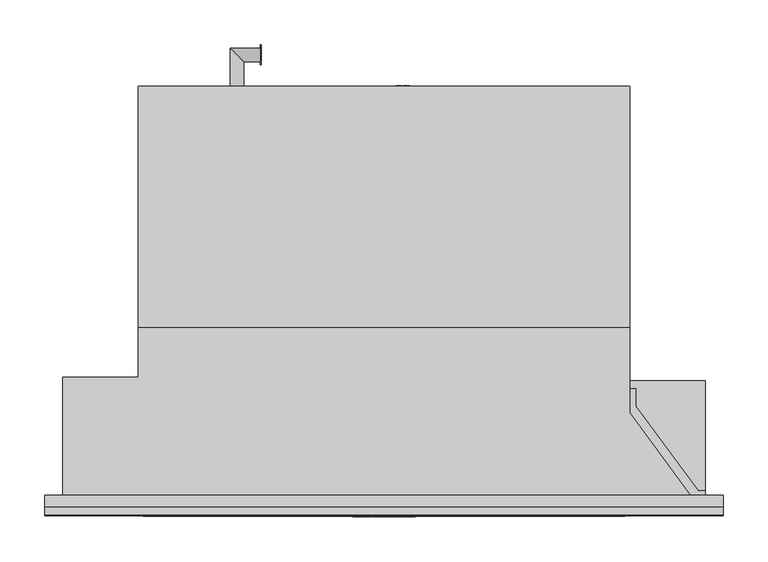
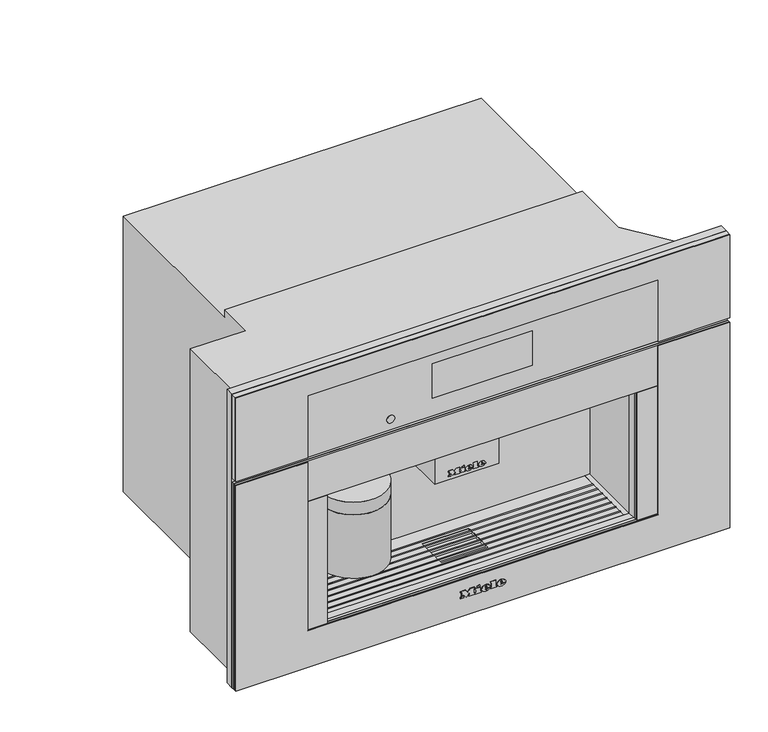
"""IFC4 building model written with IfcOpenShell, lengths in millimetres: proxy geometry, 11733870_CDN_CVA7775_EDST-CLST : 29777540_CDN_11733870_CVA7775_EDST-CLST."""

from ifc_helpers import new_model, si_unit, point, frame, frame_2d, origin, place, context, project, spatial, polyline, circle_curve, ellipse_curve, trimmed, segment, composite_curve, outline, extrude, faceted_brep, source, transform, mapped, element, save
from ifc_brep_helpers import plane_surface, cylinder_surface, revolved_surface, extruded_surface, advanced_brep


def specialty_equipment_463541c9(model_context):
    return source(origin(), model_context, "Body", "SolidModel", [
        extrude(outline(composite_curve([segment(trimmed(circle_curve(frame_2d((-14.0, 36.5)), 5.0), [point((-9.0, 36.5))], [point((-19.0, 36.5))], False, "CARTESIAN"), True, "CONTINUOUS"), segment(trimmed(circle_curve(frame_2d((-14.0, 36.5)), 5.0), [point((-19.0, 36.5))], [point((-9.0, 36.5))], False, "CARTESIAN"), True, "CONTINUOUS")], self_intersect=False)), frame((0.0, 0.0, 193.0), z_axis=(0.0, 0.0, 1.0), x_axis=(1.0, 0.0, 0.0)), (0.0, 0.0, 1.0), 5.0),
        extrude(outline(composite_curve([segment(trimmed(circle_curve(frame_2d((14.0, 36.5)), 5.0), [point((19.0, 36.5))], [point((9.0, 36.5))], False, "CARTESIAN"), True, "CONTINUOUS"), segment(trimmed(circle_curve(frame_2d((14.0, 36.5)), 5.0), [point((9.0, 36.5))], [point((19.0, 36.5))], False, "CARTESIAN"), True, "CONTINUOUS")], self_intersect=False)), frame((0.0, 0.0, 193.0), z_axis=(0.0, 0.0, 1.0), x_axis=(1.0, 0.0, 0.0)), (0.0, 0.0, 1.0), 5.0),
        extrude(outline(composite_curve([segment(trimmed(circle_curve(frame_2d((-156.5, 49.5)), 50.0), [point((-106.5, 49.5))], [point((-206.5, 49.5))], False, "CARTESIAN"), True, "CONTINUOUS"), segment(trimmed(circle_curve(frame_2d((-156.5, 49.5)), 50.0), [point((-206.5, 49.5))], [point((-106.5, 49.5))], False, "CARTESIAN"), True, "CONTINUOUS")], self_intersect=False)), frame((0.0, 0.0, 100.0), z_axis=(0.0, 0.0, 1.0), x_axis=(1.0, 0.0, 0.0)), (0.0, 0.0, 1.0), 103.0),
        extrude(outline(polyline([(-49.0, 95.0), (49.0, 95.0), (49.0, 20.0), (-49.0, 20.0), (-49.0, 95.0)])), frame((0.0, 0.0, 198.0), z_axis=(0.0, 0.0, 1.0), x_axis=(1.0, 0.0, 0.0)), (0.0, 0.0, 1.0), 75.0),
        extrude(outline(polyline([(479.0, 378.5), (479.0, -378.5), (4.0, -378.5), (4.0, 378.5), (479.0, 378.5)]), holes=[polyline([(273.0, 237.5), (63.0, 237.5), (63.0, -237.5), (273.0, -237.5), (273.0, 237.5)])]), frame((0.0, -13.0, 0.0), z_axis=(0.0, 1.0, 0.0), x_axis=(0.0, 0.0, 1.0)), (0.0, 0.0, 1.0), 13.0),
        extrude(outline(polyline([(281.0, 118.7), (281.0, 99.0591954), (350.457423, 4.7), (358.5, 4.7), (358.5, 0.0), (341.5, 0.0), (274.0, 91.7), (274.0, 118.7), (281.0, 118.7)])), frame((0.0, 0.0, 45.0), z_axis=(0.0, 0.0, 1.0), x_axis=(1.0, 0.0, 0.0)), (0.0, 0.0, 1.0), 34.0),
        faceted_brep([(-22.0, 400.0, 133.0), (55.0, 400.0, 133.0), (55.0, 400.0, 66.0), (35.0, 400.0, 66.0), (-22.0, 400.0, 89.0), (-22.0, 456.0, 133.0), (55.0, 456.0, 133.0), (55.0, 456.0, 66.0), (35.0, 456.0, 66.0), (-22.0, 456.0, 89.0), (358.5, 0.0, 0.0), (358.5, 127.7, 0.0), (358.5, 127.7, 45.0), (358.5, 0.0, 45.0), (-358.5, 0.0, 0.0), (-358.5, 0.0, 458.0), (-358.5, 131.7, 458.0), (-358.5, 131.7, 0.0), (-274.0, 131.7, 0.0), (-274.0, 456.0, 0.0), (274.0, 456.0, 0.0), (274.0, 127.7, 0.0), (274.0, 456.0, 446.0), (-274.0, 456.0, 446.0), (274.0, 187.0, 446.0), (-274.0, 187.0, 446.0), (274.0, 187.0, 458.0), (-274.0, 187.0, 458.0), (341.5, 0.0, 458.0), (274.0, 91.7, 458.0), (-274.0, 131.7, 458.0), (341.5, 0.0, 45.0), (237.5, 0.0, 273.0), (237.5, 0.0, 63.0), (229.5, 0.0, 63.0), (229.5, 0.0, 62.0), (-229.5, 0.0, 62.0), (-229.5, 0.0, 63.0), (-237.5, 0.0, 63.0), (-237.5, 0.0, 273.0), (237.5, 104.5, 273.0), (-237.5, 104.5, 273.0), (-237.5, 104.5, 63.0), (-229.5, 104.5, 63.0), (-229.5, 104.5, 62.0), (229.5, 104.5, 62.0), (229.5, 104.5, 63.0), (237.5, 104.5, 63.0), (-36.0, 76.0, 62.0), (36.0, 76.0, 62.0), (36.0, 25.0, 62.0), (-36.0, 25.0, 62.0), (36.0, 76.0, 58.0), (-36.0, 76.0, 58.0), (-36.0, 25.0, 58.0), (36.0, 25.0, 58.0), (274.0, 91.7, 45.0), (274.0, 127.7, 45.0)], [[[0, 1, 2, 3, 4]], [[1, 0, 5, 6]], [[2, 1, 6, 7]], [[3, 2, 7, 8]], [[4, 3, 8, 9]], [[0, 4, 9, 5]], [[10, 11, 12, 13]], [[14, 15, 16, 17]], [[10, 14, 17, 18, 19, 20, 21, 11]], [[22, 20, 19, 23], [6, 5, 9, 8, 7]], [[24, 22, 23, 25]], [[26, 24, 25, 27]], [[15, 28, 29, 26, 27, 30, 16]], [[15, 14, 10, 13, 31, 28], [32, 33, 34, 35, 36, 37, 38, 39]], [[40, 41, 42, 43, 44, 45, 46, 47]], [[40, 47, 33, 32]], [[33, 47, 46, 34]], [[42, 38, 37, 43]], [[42, 41, 39, 38]], [[41, 40, 32, 39]], [[45, 44, 36, 35], [48, 49, 50, 51]], [[36, 44, 43, 37]], [[45, 35, 34, 46]], [[52, 53, 54, 55]], [[53, 52, 49, 48]], [[54, 53, 48, 51]], [[55, 54, 51, 50]], [[52, 55, 50, 49]], [[21, 20, 22, 24, 26, 29, 56, 57]], [[18, 30, 27, 25, 23, 19]], [[11, 21, 57, 12]], [[57, 56, 31, 13, 12]], [[30, 18, 17, 16]], [[31, 56, 29, 28]]]),
        extrude(outline(polyline([(480.48348, 22.0), (480.48348, 32.045631), (481.7391839, 32.045631), (481.7391839, 27.128275), (486.8895318, 32.045631), (488.6455552, 32.045631), (484.3217155, 27.9155425), (488.8025182, 22.0), (487.267224, 22.0), (483.4314411, 27.0669613), (481.7391839, 25.4531857), (481.7391839, 22.0), (480.48348, 22.0)])), frame((-138.0, 0.0, 0.0), z_axis=(1.0, 0.0, 0.0), x_axis=(0.0, 1.0, 0.0)), (0.0, 0.0, 1.0), 1.0),
        extrude(outline(polyline([(491.5420128, 22.0), (488.8025182, 32.045631), (490.0974628, 32.045631), (491.6867131, 25.4433755), (492.1772224, 23.4053092), (492.7020674, 25.207931), (494.6935352, 32.045631), (496.5599232, 32.045631), (498.0069257, 27.0890343), (499.0835937, 23.4053092), (499.5593878, 25.3845144), (501.1633533, 32.045631), (502.4582979, 32.045631), (499.7163507, 22.0), (498.3748077, 22.0), (495.9664069, 29.7500474), (495.630408, 30.8316204), (495.2527159, 29.5293182), (493.0576866, 22.0), (491.5420128, 22.0)])), frame((-138.0, 0.0, 0.0), z_axis=(1.0, 0.0, 0.0), x_axis=(0.0, 1.0, 0.0)), (0.0, 0.0, 1.0), 1.0),
        advanced_brep(
        [(-156.5, 456.0, 27.0), (-171.5, 456.0, 27.0), (-156.5, 483.5, 27.0), (-171.5, 498.5, 27.0), (-138.0, 483.5, 27.0), (-138.0, 498.5, 27.0)],
        [
            (0, 1, circle_curve(frame((-164.0, 456.0, 27.0), z_axis=(0.0, -1.0, 0.0), x_axis=(-1.0, 0.0, 0.0)), 7.5)),
            (1, 0, circle_curve(frame((-164.0, 456.0, 27.0), z_axis=(0.0, -1.0, 0.0), x_axis=(-1.0, 0.0, 0.0)), 7.5)),
            (0, 2),
            (2, 3, ellipse_curve(frame((-164.0, 491.0, 27.0), z_axis=(-0.707106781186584, -0.7071067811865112, 0.0), x_axis=(0.7071067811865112, -0.7071067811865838, 0.0)), 10.6066017, 7.5)),
            (3, 1),
            (3, 2, ellipse_curve(frame((-164.0, 491.0, 27.0), z_axis=(-0.707106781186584, -0.7071067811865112, 0.0), x_axis=(0.7071067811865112, -0.7071067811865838, 0.0)), 10.6066017, 7.5)),
            (4, 5, circle_curve(frame((-138.0, 491.0, 27.0), z_axis=(1.0, 0.0, 0.0), x_axis=(0.0, 1.0, 0.0)), 7.5)),
            (5, 4, circle_curve(frame((-138.0, 491.0, 27.0), z_axis=(1.0, 0.0, 0.0), x_axis=(0.0, 1.0, 0.0)), 7.5)),
            (2, 4),
            (5, 3),
        ],
        [
            plane_surface(frame((-164.0, 456.0, 27.0), z_axis=(0.0, -1.0, 0.0), x_axis=(0.0, 0.0, 1.0))),
            cylinder_surface(frame((-164.0, 456.0, 27.0), z_axis=(0.0, -1.0, 0.0), x_axis=(-1.0, 0.0, 0.0)), 7.5),
            plane_surface(frame((-138.0, 491.0, 27.0), z_axis=(1.0, 0.0, 0.0), x_axis=(0.0, 0.0, 1.0))),
            cylinder_surface(frame((-164.0, 491.0, 27.0), z_axis=(-1.0, 0.0, 0.0), x_axis=(0.0, 1.0, 0.0)), 7.5),
        ],
        [
            (0, [[1, 2]]),
            (1, [[-1, 3, 4, 5]]),
            (1, [[-2, -5, 6, -3]]),
            (2, [[7, 8]]),
            (3, [[-4, 9, -8, 10]]),
            (3, [[-6, -10, -7, -9]]),
        ],
    ),
        extrude(outline(polyline([(99.0, 28.8772152), (109.045631, 28.8772152), (109.045631, 21.6569179), (107.7899271, 21.6569179), (107.7899271, 27.6215114), (104.8076304, 27.6215114), (104.8076304, 21.9708439), (103.5519266, 21.9708439), (103.5519266, 27.6215114), (100.2557039, 27.6215114), (100.2557039, 21.499955), (99.0, 21.499955), (99.0, 28.8772152)])), frame((0.0, 456.0, 0.0), z_axis=(0.0, 1.0, 0.0), x_axis=(0.0, 0.0, 1.0)), (0.0, 0.0, 1.0), 1.0),
        extrude(outline(polyline([(99.0, 19.6163991), (109.045631, 19.6163991), (109.045631, 18.3606953), (100.2557039, 18.3606953), (100.2557039, 13.3378798), (99.0, 13.3378798), (99.0, 19.6163991)])), frame((0.0, 456.0, 0.0), z_axis=(0.0, 1.0, 0.0), x_axis=(0.0, 0.0, 1.0)), (0.0, 0.0, 1.0), 1.0),
        advanced_brep(
        [(55.0, 425.5, 104.0), (55.0, 410.5, 104.0), (28.5, 425.5, 104.0), (13.5, 410.5, 104.0), (28.5, 456.0, 104.0), (13.5, 456.0, 104.0)],
        [
            (0, 1, circle_curve(frame((55.0, 418.0, 104.0), z_axis=(1.0, 0.0, 0.0), x_axis=(0.0, -1.0, 0.0)), 7.5)),
            (1, 0, circle_curve(frame((55.0, 418.0, 104.0), z_axis=(1.0, 0.0, 0.0), x_axis=(0.0, -1.0, 0.0)), 7.5)),
            (0, 2),
            (2, 3, ellipse_curve(frame((21.0, 418.0, 104.0), z_axis=(0.7071067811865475, -0.7071067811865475, 0.0), x_axis=(0.7071067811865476, 0.7071067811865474, 0.0)), 10.6066017, 7.5)),
            (3, 1),
            (3, 2, ellipse_curve(frame((21.0, 418.0, 104.0), z_axis=(0.7071067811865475, -0.7071067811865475, 0.0), x_axis=(0.7071067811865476, 0.7071067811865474, 0.0)), 10.6066017, 7.5)),
            (4, 5, circle_curve(frame((21.0, 456.0, 104.0), z_axis=(0.0, 1.0, 0.0), x_axis=(-1.0, 0.0, 0.0)), 7.5)),
            (5, 4, circle_curve(frame((21.0, 456.0, 104.0), z_axis=(0.0, 1.0, 0.0), x_axis=(-1.0, 0.0, 0.0)), 7.5)),
            (2, 4),
            (5, 3),
        ],
        [
            plane_surface(frame((55.0, 418.0, 104.0), z_axis=(1.0, 0.0, 0.0), x_axis=(0.0, 0.0, 1.0))),
            cylinder_surface(frame((55.0, 418.0, 104.0), z_axis=(1.0, 0.0, 0.0), x_axis=(0.0, -1.0, 0.0)), 7.5),
            plane_surface(frame((21.0, 456.0, 104.0), z_axis=(0.0, 1.0, 0.0), x_axis=(0.0, 0.0, 1.0))),
            cylinder_surface(frame((21.0, 418.0, 104.0), z_axis=(0.0, -1.0, 0.0), x_axis=(-1.0, 0.0, 0.0)), 7.5),
        ],
        [
            (0, [[1, 2]]),
            (1, [[-1, 3, 4, 5]]),
            (1, [[-2, -5, 6, -3]]),
            (2, [[7, 8]]),
            (3, [[-4, 9, -8, 10]]),
            (3, [[-6, -10, -7, -9]]),
        ],
    ),
        advanced_brep(
        [(-110.0, 49.5, 252.0), (-203.0, 49.5, 252.0), (-206.5, 49.5, 223.5), (-106.5, 49.5, 223.5), (-110.0, 49.5, 273.0), (-203.0, 49.5, 273.0), (-156.5, 49.5, 273.0), (-106.5, 49.5, 203.0), (-206.5, 49.5, 203.0), (-156.5, 49.5, 203.0)],
        [
            (0, 1, circle_curve(frame((-156.5, 49.5, 252.0), z_axis=(0.0, 0.0, -1.0), x_axis=(-1.0, 0.0, 0.0)), 46.5)),
            (1, 2, circle_curve(frame((-206.7961166, 49.5, 238.0012775), z_axis=(0.0, 1.0, 0.0), x_axis=(-1.0, 0.0, 0.0)), 14.5043005)),
            (2, 3, circle_curve(frame((-156.5, 49.5, 223.5), z_axis=(0.0, 0.0, 1.0), x_axis=(-1.0, 0.0, 0.0)), 50.0)),
            (3, 0, circle_curve(frame((-106.2038834, 49.5, 238.0012775), z_axis=(0.0, 1.0, 0.0), x_axis=(1.0, 0.0, 0.0)), 14.5043005)),
            (4, 5, circle_curve(frame((-156.5, 49.5, 273.0), z_axis=(0.0, 0.0, -1.0), x_axis=(-1.0, 0.0, 0.0)), 46.5)),
            (5, 1),
            (0, 4),
            (6, 4),
            (4, 5, circle_curve(frame((-156.5, 49.5, 273.0), z_axis=(0.0, 0.0, 1.0), x_axis=(-1.0, 0.0, 0.0)), 46.5)),
            (5, 6),
            (7, 8, circle_curve(frame((-156.5, 49.5, 203.0), z_axis=(0.0, 0.0, -1.0), x_axis=(-1.0, 0.0, 0.0)), 50.0)),
            (8, 9),
            (9, 7),
            (8, 7, circle_curve(frame((-156.5, 49.5, 203.0), z_axis=(0.0, 0.0, -1.0), x_axis=(-1.0, 0.0, 0.0)), 50.0)),
            (2, 8),
            (7, 3),
            (2, 3, circle_curve(frame((-156.5, 49.5, 223.5), z_axis=(0.0, 0.0, -1.0), x_axis=(-1.0, 0.0, 0.0)), 50.0)),
            (1, 0, circle_curve(frame((-156.5, 49.5, 252.0), z_axis=(0.0, 0.0, -1.0), x_axis=(-1.0, 0.0, 0.0)), 46.5)),
        ],
        [
            revolved_surface(trimmed(ellipse_curve(frame((-206.7961166, 49.5, 238.0012775), z_axis=(0.0, -1.0, 0.0), x_axis=(-1.0, 0.0, 0.0)), 14.5043005, 14.5043005), [point((-206.5, 49.5, 223.5))], [point((-203.0, 49.5, 252.0))], True, "CARTESIAN"), (-156.5, 49.5, 388.7361736), (0.0, 0.0, 1.0)),
            cylinder_surface(frame((-156.5, 49.5, 388.7361736), z_axis=(0.0, 0.0, 1.0), x_axis=(-1.0, 0.0, 0.0)), 46.5),
            plane_surface(frame((-156.5, 49.5, 273.0), z_axis=(0.0, 0.0, 1.0), x_axis=(-1.0, 0.0, 0.0))),
            plane_surface(frame((-156.5, 49.5, 203.0), z_axis=(0.0, 0.0, -1.0), x_axis=(-1.0, 0.0, 0.0))),
            cylinder_surface(frame((-156.5, 49.5, 388.7361736), z_axis=(0.0, 0.0, 1.0), x_axis=(-1.0, 0.0, 0.0)), 50.0),
        ],
        [
            (0, [[1, 2, 3, 4]]),
            (1, [[5, 6, -1, 7]]),
            (2, [[8, 9, 10]]),
            (3, [[11, 12, 13]]),
            (3, [[14, -13, -12]]),
            (4, [[-3, 15, -11, 16]]),
            (4, [[17, -16, -14, -15]]),
            (0, [[18, -4, -17, -2]]),
            (1, [[-9, -7, -18, -6]]),
            (2, [[-10, -5, -8]]),
        ],
    ),
        faceted_brep([(229.5, 82.0925571, 60.0), (229.5, 80.0925571, 60.0), (-229.5, 80.0925571, 60.0), (-229.5, 82.0925571, 60.0), (229.5, 70.0550731, 60.0), (229.5, 68.0550731, 60.0), (-229.5, 68.0550731, 60.0), (-229.5, 70.0550731, 60.0), (229.5, 58.0175891, 60.0), (229.5, 56.0175891, 60.0), (-229.5, 56.0175891, 60.0), (-229.5, 58.0175891, 60.0), (229.5, 45.9801052, 60.0), (229.5, 43.9801052, 60.0), (-229.5, 43.9801052, 60.0), (-229.5, 45.9801052, 60.0), (229.5, 33.9426212, 60.0), (229.5, 31.9426212, 60.0), (-229.5, 31.9426212, 60.0), (-229.5, 33.9426212, 60.0), (229.5, 21.9776522, 60.0), (229.5, 19.9776522, 60.0), (-229.5, 19.9776522, 60.0), (-229.5, 21.9776522, 60.0), (229.5, 10.0, 60.0), (229.5, 8.0, 60.0), (-229.5, 8.0, 60.0), (-229.5, 10.0, 60.0), (-229.5, 45.9801052, 62.0), (-36.0, 45.9801052, 62.0), (-36.0, 45.9801052, 63.0), (-229.5, 45.9801052, 63.0), (-229.5, 45.9801052, 63.5), (229.5, 45.9801052, 63.5), (229.5, 45.9801052, 63.0), (36.0, 45.9801052, 63.0), (36.0, 45.9801052, 62.0), (229.5, 45.9801052, 62.0), (229.5, 19.9776522, 62.0), (229.5, 10.0, 62.0), (-229.5, 10.0, 62.0), (-229.5, 19.9776522, 62.0), (229.5, 43.9801052, 62.0), (229.5, 33.9426212, 62.0), (36.0, 33.9426212, 62.0), (36.0, 43.9801052, 62.0), (229.5, 56.0175891, 62.0), (36.0, 56.0175891, 62.0), (229.5, 68.0550731, 62.0), (229.5, 58.0175891, 62.0), (36.0, 58.0175891, 62.0), (36.0, 68.0550731, 62.0), (-229.5, 33.9426212, 62.0), (-229.5, 43.9801052, 62.0), (-36.0, 43.9801052, 62.0), (-36.0, 33.9426212, 62.0), (-229.5, 56.0175891, 62.0), (-36.0, 56.0175891, 62.0), (-229.5, 58.0175891, 62.0), (-229.5, 68.0550731, 62.0), (-36.0, 68.0550731, 62.0), (-36.0, 58.0175891, 62.0), (-229.5, 104.5, 62.0), (229.5, 104.5, 62.0), (229.5, 82.0925571, 62.0), (-229.5, 82.0925571, 62.0), (36.0, 76.0, 62.0), (-36.0, 76.0, 62.0), (-36.0, 70.0550731, 62.0), (-229.5, 70.0550731, 62.0), (-229.5, 80.0925571, 62.0), (229.5, 80.0925571, 62.0), (229.5, 70.0550731, 62.0), (36.0, 70.0550731, 62.0), (229.5, 0.0, 62.0), (-229.5, 0.0, 62.0), (-229.5, 8.0, 62.0), (229.5, 8.0, 62.0), (-36.0, 25.0, 62.0), (36.0, 25.0, 62.0), (36.0, 31.9426212, 62.0), (229.5, 31.9426212, 62.0), (229.5, 21.9776522, 62.0), (-229.5, 21.9776522, 62.0), (-229.5, 31.9426212, 62.0), (-36.0, 31.9426212, 62.0), (229.5, 104.5, 63.0), (-229.5, 104.5, 63.0), (-229.5, 82.0925571, 63.0), (229.5, 82.0925571, 63.0), (-229.5, 0.0, 63.0), (229.5, 0.0, 63.0), (229.5, 8.0, 63.0), (-229.5, 8.0, 63.0), (-36.0, 76.0, 63.0), (36.0, 76.0, 63.0), (36.0, 70.0550731, 63.0), (229.5, 70.0550731, 63.0), (229.5, 80.0925571, 63.0), (-229.5, 80.0925571, 63.0), (-229.5, 70.0550731, 63.0), (-36.0, 70.0550731, 63.0), (36.0, 25.0, 63.0), (-36.0, 25.0, 63.0), (-36.0, 31.9426212, 63.0), (-229.5, 31.9426212, 63.0), (-229.5, 21.9776522, 63.0), (229.5, 21.9776522, 63.0), (229.5, 31.9426212, 63.0), (36.0, 31.9426212, 63.0), (-229.5, 19.9776522, 63.0), (-229.5, 10.0, 63.0), (229.5, 10.0, 63.0), (229.5, 19.9776522, 63.0), (-229.5, 43.9801052, 63.0), (-229.5, 33.9426212, 63.0), (-36.0, 33.9426212, 63.0), (-36.0, 43.9801052, 63.0), (-229.5, 56.0175891, 63.0), (-36.0, 56.0175891, 63.0), (-229.5, 68.0550731, 63.0), (-229.5, 58.0175891, 63.0), (-36.0, 58.0175891, 63.0), (-36.0, 68.0550731, 63.0), (229.5, 33.9426212, 63.0), (229.5, 43.9801052, 63.0), (36.0, 43.9801052, 63.0), (36.0, 33.9426212, 63.0), (229.5, 56.0175891, 63.0), (36.0, 56.0175891, 63.0), (229.5, 58.0175891, 63.0), (229.5, 68.0550731, 63.0), (36.0, 68.0550731, 63.0), (36.0, 58.0175891, 63.0), (-229.5, 8.0, 63.5), (-229.5, 10.0, 63.5), (-229.5, 19.9776522, 63.5), (-229.5, 21.9776522, 63.5), (-229.5, 31.9426212, 63.5), (-229.5, 33.9426212, 63.5), (-229.5, 43.9801052, 63.5), (-229.5, 56.0175891, 63.5), (-229.5, 58.0175891, 63.5), (-229.5, 68.0550731, 63.5), (-229.5, 70.0550731, 63.5), (-229.5, 80.0925571, 63.5), (-229.5, 82.0925571, 63.5), (229.5, 82.0925571, 63.5), (229.5, 80.0925571, 63.5), (229.5, 70.0550731, 63.5), (229.5, 68.0550731, 63.5), (229.5, 58.0175891, 63.5), (229.5, 56.0175891, 63.5), (229.5, 43.9801052, 63.5), (229.5, 33.9426212, 63.5), (229.5, 31.9426212, 63.5), (229.5, 21.9776522, 63.5), (229.5, 19.9776522, 63.5), (229.5, 10.0, 63.5), (229.5, 8.0, 63.5)], [[[0, 1, 2, 3]], [[4, 5, 6, 7]], [[8, 9, 10, 11]], [[12, 13, 14, 15]], [[16, 17, 18, 19]], [[20, 21, 22, 23]], [[24, 25, 26, 27]], [[12, 15, 28, 29, 30, 31, 32, 33, 34, 35, 36, 37]], [[38, 39, 40, 41]], [[42, 43, 44, 45]], [[46, 37, 36, 47]], [[48, 49, 50, 51]], [[52, 53, 54, 55]], [[28, 56, 57, 29]], [[58, 59, 60, 61]], [[62, 63, 64, 65]], [[66, 67, 68, 69, 70, 71, 72, 73]], [[74, 75, 76, 77]], [[78, 79, 80, 81, 82, 83, 84, 85]], [[86, 87, 88, 89]], [[90, 91, 92, 93]], [[94, 95, 96, 97, 98, 99, 100, 101]], [[102, 103, 104, 105, 106, 107, 108, 109]], [[110, 111, 112, 113]], [[114, 115, 116, 117]], [[118, 31, 30, 119]], [[120, 121, 122, 123]], [[124, 125, 126, 127]], [[34, 128, 129, 35]], [[130, 131, 132, 133]], [[63, 62, 87, 86]], [[87, 62, 65, 3, 2, 70, 69, 7, 6, 59, 58, 11, 10, 56, 28, 15, 14, 53, 52, 19, 18, 84, 83, 23, 22, 41, 40, 27, 26, 76, 75, 90, 93, 134, 135, 111, 110, 136, 137, 106, 105, 138, 139, 115, 114, 140, 32, 31, 118, 141, 142, 121, 120, 143, 144, 100, 99, 145, 146, 88]], [[75, 74, 91, 90]], [[63, 86, 89, 147, 148, 98, 97, 149, 150, 131, 130, 151, 152, 128, 34, 33, 153, 125, 124, 154, 155, 108, 107, 156, 157, 113, 112, 158, 159, 92, 91, 74, 77, 25, 24, 39, 38, 21, 20, 82, 81, 17, 16, 43, 42, 13, 12, 37, 46, 9, 8, 49, 48, 5, 4, 72, 71, 1, 0, 64]], [[66, 95, 94, 67]], [[55, 54, 117, 116]], [[29, 57, 119, 30]], [[61, 60, 123, 122]], [[67, 94, 101, 68]], [[103, 78, 85, 104]], [[78, 103, 102, 79]], [[45, 44, 127, 126]], [[47, 36, 35, 129]], [[51, 50, 133, 132]], [[95, 66, 73, 96]], [[79, 102, 109, 80]], [[158, 135, 134, 159]], [[156, 137, 136, 157]], [[154, 139, 138, 155]], [[33, 32, 140, 153]], [[151, 142, 141, 152]], [[149, 144, 143, 150]], [[147, 146, 145, 148]], [[24, 27, 40, 39]], [[135, 158, 112, 111]], [[26, 25, 77, 76]], [[159, 134, 93, 92]], [[20, 23, 83, 82]], [[137, 156, 107, 106]], [[22, 21, 38, 41]], [[157, 136, 110, 113]], [[16, 19, 52, 55, 116, 115, 139, 154, 124, 127, 44, 43]], [[18, 17, 81, 80, 109, 108, 155, 138, 105, 104, 85, 84]], [[14, 13, 42, 45, 126, 125, 153, 140, 114, 117, 54, 53]], [[8, 11, 58, 61, 122, 121, 142, 151, 130, 133, 50, 49]], [[10, 9, 46, 47, 129, 128, 152, 141, 118, 119, 57, 56]], [[4, 7, 69, 68, 101, 100, 144, 149, 97, 96, 73, 72]], [[6, 5, 48, 51, 132, 131, 150, 143, 120, 123, 60, 59]], [[0, 3, 65, 64]], [[146, 147, 89, 88]], [[2, 1, 71, 70]], [[148, 145, 99, 98]]]),
        advanced_brep(
        [(27.088, -24.3, 36.7018), (27.088, -24.3, 37.8532), (34.7146, -24.3, 37.8532), (21.445, -24.3, 37.8532), (24.58, -24.3, 34.0), (34.5208, -24.3, 36.7018), (31.078, -24.3, 36.7018), (28.3648, -24.3, 35.425), (27.088, -24.3, 39.3124), (27.088, -24.3, 40.555), (29.0374, -24.3, 40.555), (29.0374, -24.3, 39.3124), (27.088, -23.3, 36.7018), (28.3648, -23.3, 35.425), (31.078, -23.3, 36.7018), (34.5208, -23.3, 36.7018), (24.58, -23.3, 34.0), (21.445, -23.3, 37.8532), (34.7146, -23.3, 37.8532), (27.088, -23.3, 37.8532), (27.088, -23.3, 39.3124), (29.0374, -23.3, 39.3124), (29.0374, -23.3, 40.555), (27.088, -23.3, 40.555)],
        [
            (0, 1),
            (1, 2),
            (2, 3, ellipse_curve(frame((28.0798, -24.3, 37.8532), z_axis=(0.0, -1.0, 0.0), x_axis=(-1.0, 0.0, 0.0)), 6.6348, 5.4834)),
            (3, 4, circle_curve(frame((25.8568622, -24.3, 38.2408), z_axis=(0.0, -1.0, 0.0), x_axis=(0.0, 0.0, -1.0)), 4.4288556)),
            (4, 5, circle_curve(frame((27.9469808, -24.3, 41.2504), z_axis=(0.0, -1.0, 0.0), x_axis=(0.0, 0.0, -1.0)), 7.9940516)),
            (5, 6),
            (6, 7, circle_curve(frame((28.9220588, -24.3, 37.762), z_axis=(0.0, 1.0, 0.0), x_axis=(0.0, 0.0, -1.0)), 2.4025208)),
            (7, 0, circle_curve(frame((28.3648, -24.3, 36.7018), z_axis=(0.0, 1.0, 0.0), x_axis=(0.0, 0.0, -1.0)), 1.2768)),
            (8, 9),
            (9, 10, circle_curve(frame((28.0627, -24.3, 40.555), z_axis=(0.0, 1.0, 0.0), x_axis=(0.0, 0.0, -1.0)), 0.9747)),
            (10, 11),
            (11, 8),
            (12, 13, circle_curve(frame((28.3648, -23.3, 36.7018), z_axis=(0.0, -1.0, 0.0), x_axis=(0.0, 0.0, -1.0)), 1.2768)),
            (13, 14, circle_curve(frame((28.9220588, -23.3, 37.762), z_axis=(0.0, -1.0, 0.0), x_axis=(0.0, 0.0, -1.0)), 2.4025208)),
            (14, 15),
            (15, 16, circle_curve(frame((27.9469808, -23.3, 41.2504), z_axis=(0.0, 1.0, 0.0), x_axis=(0.0, 0.0, -1.0)), 7.9940516)),
            (16, 17, circle_curve(frame((25.8568622, -23.3, 38.2408), z_axis=(0.0, 1.0, 0.0), x_axis=(0.0, 0.0, -1.0)), 4.4288556)),
            (17, 18, ellipse_curve(frame((28.0798, -23.3, 37.8532), z_axis=(0.0, 1.0, 0.0), x_axis=(-1.0, 0.0, 0.0)), 6.6348, 5.4834)),
            (18, 19),
            (19, 12),
            (20, 21),
            (21, 22),
            (22, 23, circle_curve(frame((28.0627, -23.3, 40.555), z_axis=(0.0, -1.0, 0.0), x_axis=(0.0, 0.0, -1.0)), 0.9747)),
            (23, 20),
            (0, 12),
            (19, 1),
            (18, 2),
            (5, 15),
            (14, 6),
            (17, 3),
            (13, 7),
            (16, 4),
            (8, 20),
            (23, 9),
            (22, 10),
            (21, 11),
        ],
        [
            plane_surface(frame((27.088, -24.3, 37.8532), z_axis=(0.0, -1.0, 0.0), x_axis=(0.0, 0.0, 1.0))),
            plane_surface(frame((27.088, -23.3, 37.8532), z_axis=(0.0, 1.0, 0.0), x_axis=(0.0, 0.0, -1.0))),
            plane_surface(frame((27.088, -24.3, 36.7018), z_axis=(1.0, 0.0, 0.0), x_axis=(0.0, 1.0, 0.0))),
            plane_surface(frame((27.088, -24.3, 37.8532), z_axis=(0.0, 0.0, -1.0), x_axis=(0.0, 1.0, 0.0))),
            plane_surface(frame((34.5208, -24.3, 36.7018), z_axis=(0.0, 0.0, 1.0), x_axis=(0.0, 1.0, 0.0))),
            extruded_surface(trimmed(ellipse_curve(frame((28.0798, -22.3, 37.8532), z_axis=(0.0, -1.0, 0.0), x_axis=(-1.0, 0.0, 0.0)), 6.6348, 5.4834), [point((34.7146, -22.3, 37.8532))], [point((21.445, -22.3, 37.8532))], True, "CARTESIAN"), (0.0, -1.0, 0.0), 1.0),
            revolved_surface(polyline([(28.9220588, -23.3, 35.3594792), (28.9220588, -24.3, 35.3594792)]), (28.9220588, -23.3, 37.762), (0.0, 1.0, 0.0)),
            revolved_surface(polyline([(28.3648, -23.3, 35.425), (28.3648, -24.3, 35.425)]), (28.3648, -23.3, 36.7018), (0.0, 1.0, 0.0)),
            cylinder_surface(frame((25.8568622, -23.3, 38.2408), z_axis=(0.0, -1.0, 0.0), x_axis=(0.0, 0.0, -1.0)), 4.4288556),
            cylinder_surface(frame((27.9469808, -23.3, 41.2504), z_axis=(0.0, -1.0, 0.0), x_axis=(0.0, 0.0, -1.0)), 7.9940516),
            plane_surface(frame((27.088, -24.3, 39.3124), z_axis=(1.0, 0.0, 0.0), x_axis=(0.0, 1.0, 0.0))),
            revolved_surface(polyline([(28.0627, -23.3, 39.5803), (28.0627, -24.3, 39.5803)]), (28.0627, -23.3, 40.555), (0.0, 1.0, 0.0)),
            plane_surface(frame((29.0374, -24.3, 40.555), z_axis=(-1.0, 0.0, 0.0), x_axis=(0.0, 1.0, 0.0))),
            plane_surface(frame((29.0374, -24.3, 39.3124), z_axis=(0.0, 0.0, 1.0), x_axis=(0.0, 1.0, 0.0))),
        ],
        [
            (0, [[1, 2, 3, 4, 5, 6, 7, 8], [9, 10, 11, 12]]),
            (1, [[13, 14, 15, 16, 17, 18, 19, 20], [21, 22, 23, 24]]),
            (2, [[-1, 25, -20, 26]]),
            (3, [[-2, -26, -19, 27]]),
            (4, [[-6, 28, -15, 29]]),
            (5, [[-3, -27, -18, 30]]),
            (6, [[-7, -29, -14, 31]]),
            (7, [[-8, -31, -13, -25]]),
            (8, [[-4, -30, -17, 32]]),
            (9, [[-5, -32, -16, -28]]),
            (10, [[-9, 33, -24, 34]]),
            (11, [[-10, -34, -23, 35]]),
            (12, [[-11, -35, -22, 36]]),
            (13, [[-12, -36, -21, -33]]),
        ],
    ),
        advanced_brep(
        [(3.2962, -24.3, 36.7018), (3.2962, -24.3, 37.8532), (10.9228, -24.3, 37.8532), (-2.3468, -24.3, 37.8532), (0.7882, -24.3, 34.0), (10.729, -24.3, 36.7018), (7.2862, -24.3, 36.7018), (4.573, -24.3, 35.425), (3.2962, -24.3, 39.3124), (3.2962, -24.3, 40.555), (5.2456, -24.3, 40.555), (5.2456, -24.3, 39.3124), (3.2962, -23.3, 36.7018), (4.573, -23.3, 35.425), (7.2862, -23.3, 36.7018), (10.729, -23.3, 36.7018), (0.7882, -23.3, 34.0), (-2.3468, -23.3, 37.8532), (10.9228, -23.3, 37.8532), (3.2962, -23.3, 37.8532), (3.2962, -23.3, 39.3124), (5.2456, -23.3, 39.3124), (5.2456, -23.3, 40.555), (3.2962, -23.3, 40.555)],
        [
            (0, 1),
            (1, 2),
            (2, 3, ellipse_curve(frame((4.288, -24.3, 37.8532), z_axis=(0.0, -1.0, 0.0), x_axis=(-1.0, 0.0, 0.0)), 6.6348, 5.4834)),
            (3, 4, circle_curve(frame((2.0650622, -24.3, 38.2408), z_axis=(0.0, -1.0, 0.0), x_axis=(0.0, 0.0, -1.0)), 4.4288556)),
            (4, 5, circle_curve(frame((4.1551808, -24.3, 41.2504), z_axis=(0.0, -1.0, 0.0), x_axis=(0.0, 0.0, -1.0)), 7.9940516)),
            (5, 6),
            (6, 7, circle_curve(frame((5.1302588, -24.3, 37.762), z_axis=(0.0, 1.0, 0.0), x_axis=(0.0, 0.0, -1.0)), 2.4025208)),
            (7, 0, circle_curve(frame((4.573, -24.3, 36.7018), z_axis=(0.0, 1.0, 0.0), x_axis=(0.0, 0.0, -1.0)), 1.2768)),
            (8, 9),
            (9, 10, circle_curve(frame((4.2709, -24.3, 40.555), z_axis=(0.0, 1.0, 0.0), x_axis=(0.0, 0.0, -1.0)), 0.9747)),
            (10, 11),
            (11, 8),
            (12, 13, circle_curve(frame((4.573, -23.3, 36.7018), z_axis=(0.0, -1.0, 0.0), x_axis=(0.0, 0.0, -1.0)), 1.2768)),
            (13, 14, circle_curve(frame((5.1302588, -23.3, 37.762), z_axis=(0.0, -1.0, 0.0), x_axis=(0.0, 0.0, -1.0)), 2.4025208)),
            (14, 15),
            (15, 16, circle_curve(frame((4.1551808, -23.3, 41.2504), z_axis=(0.0, 1.0, 0.0), x_axis=(0.0, 0.0, -1.0)), 7.9940516)),
            (16, 17, circle_curve(frame((2.0650622, -23.3, 38.2408), z_axis=(0.0, 1.0, 0.0), x_axis=(0.0, 0.0, -1.0)), 4.4288556)),
            (17, 18, ellipse_curve(frame((4.288, -23.3, 37.8532), z_axis=(0.0, 1.0, 0.0), x_axis=(-1.0, 0.0, 0.0)), 6.6348, 5.4834)),
            (18, 19),
            (19, 12),
            (20, 21),
            (21, 22),
            (22, 23, circle_curve(frame((4.2709, -23.3, 40.555), z_axis=(0.0, -1.0, 0.0), x_axis=(0.0, 0.0, -1.0)), 0.9747)),
            (23, 20),
            (0, 12),
            (19, 1),
            (18, 2),
            (5, 15),
            (14, 6),
            (17, 3),
            (13, 7),
            (16, 4),
            (8, 20),
            (23, 9),
            (22, 10),
            (21, 11),
        ],
        [
            plane_surface(frame((3.2962, -24.3, 37.8532), z_axis=(0.0, -1.0, 0.0), x_axis=(0.0, 0.0, 1.0))),
            plane_surface(frame((3.2962, -23.3, 37.8532), z_axis=(0.0, 1.0, 0.0), x_axis=(0.0, 0.0, -1.0))),
            plane_surface(frame((3.2962, -24.3, 36.7018), z_axis=(1.0, 0.0, 0.0), x_axis=(0.0, 1.0, 0.0))),
            plane_surface(frame((3.2962, -24.3, 37.8532), z_axis=(0.0, 0.0, -1.0), x_axis=(0.0, 1.0, 0.0))),
            plane_surface(frame((10.729, -24.3, 36.7018), z_axis=(0.0, 0.0, 1.0), x_axis=(0.0, 1.0, 0.0))),
            extruded_surface(trimmed(ellipse_curve(frame((4.288, -22.3, 37.8532), z_axis=(0.0, -1.0, 0.0), x_axis=(-1.0, 0.0, 0.0)), 6.6348, 5.4834), [point((10.9228, -22.3, 37.8532))], [point((-2.3468, -22.3, 37.8532))], True, "CARTESIAN"), (0.0, -1.0, 0.0), 1.0),
            revolved_surface(polyline([(5.1302588, -23.3, 35.3594792), (5.1302588, -24.3, 35.3594792)]), (5.1302588, -23.3, 37.762), (0.0, 1.0, 0.0)),
            revolved_surface(polyline([(4.573, -23.3, 35.425), (4.573, -24.3, 35.425)]), (4.573, -23.3, 36.7018), (0.0, 1.0, 0.0)),
            cylinder_surface(frame((2.0650622, -23.3, 38.2408), z_axis=(0.0, -1.0, 0.0), x_axis=(0.0, 0.0, -1.0)), 4.4288556),
            cylinder_surface(frame((4.1551808, -23.3, 41.2504), z_axis=(0.0, -1.0, 0.0), x_axis=(0.0, 0.0, -1.0)), 7.9940516),
            plane_surface(frame((3.2962, -24.3, 39.3124), z_axis=(1.0, 0.0, 0.0), x_axis=(0.0, 1.0, 0.0))),
            revolved_surface(polyline([(4.2709, -23.3, 39.5803), (4.2709, -24.3, 39.5803)]), (4.2709, -23.3, 40.555), (0.0, 1.0, 0.0)),
            plane_surface(frame((5.2456, -24.3, 40.555), z_axis=(-1.0, 0.0, 0.0), x_axis=(0.0, 1.0, 0.0))),
            plane_surface(frame((5.2456, -24.3, 39.3124), z_axis=(0.0, 0.0, 1.0), x_axis=(0.0, 1.0, 0.0))),
        ],
        [
            (0, [[1, 2, 3, 4, 5, 6, 7, 8], [9, 10, 11, 12]]),
            (1, [[13, 14, 15, 16, 17, 18, 19, 20], [21, 22, 23, 24]]),
            (2, [[-1, 25, -20, 26]]),
            (3, [[-2, -26, -19, 27]]),
            (4, [[-6, 28, -15, 29]]),
            (5, [[-3, -27, -18, 30]]),
            (6, [[-7, -29, -14, 31]]),
            (7, [[-8, -31, -13, -25]]),
            (8, [[-4, -30, -17, 32]]),
            (9, [[-5, -32, -16, -28]]),
            (10, [[-9, 33, -24, 34]]),
            (11, [[-10, -34, -23, 35]]),
            (12, [[-11, -35, -22, 36]]),
            (13, [[-12, -36, -21, -33]]),
        ],
    ),
        extrude(outline(polyline([(44.7274, -9.164), (42.8806, -8.2976), (44.6818, -4.433), (46.5286, -5.288), (44.7274, -9.164)])), frame((0.0, -24.3, 0.0), z_axis=(0.0, 1.0, 0.0), x_axis=(0.0, 0.0, 1.0)), (0.0, 0.0, 1.0), 1.0),
        extrude(outline(polyline([(42.6298, -11.9798), (40.5892, -11.9798), (40.5892, -10.6232), (35.9152, -10.6232), (35.9152, -11.9798), (34.0, -11.9798), (34.0, -2.9852), (35.9152, -2.9852), (35.9152, -4.3076), (42.6298, -4.3076), (42.6298, -11.9798)])), frame((0.0, -24.3, 0.0), z_axis=(0.0, 1.0, 0.0), x_axis=(0.0, 0.0, 1.0)), (0.0, 0.0, 1.0), 1.0),
        extrude(outline(polyline([(43.5418, 11.5612), (43.5418, 12.9292), (35.9152, 12.9292), (35.9152, 11.5612), (34.0, 11.5612), (34.0, 20.8066), (35.9152, 20.8066), (35.9152, 19.4044), (45.4, 19.4044), (45.4, 11.5612), (43.5418, 11.5612)])), frame((0.0, -24.3, 0.0), z_axis=(0.0, 1.0, 0.0), x_axis=(0.0, 0.0, 1.0)), (0.0, 0.0, 1.0), 1.0),
        extrude(outline(polyline([(43.5418, -34.7), (43.5418, -33.3206), (35.9152, -33.3206), (35.9152, -34.7), (34.0, -34.7), (34.0, -29.684), (35.9152, -29.684), (35.9152, -31.052), (40.7429247, -31.052), (34.0, -25.9562), (40.9402223, -20.8376), (35.9152, -20.8376), (35.9152, -22.2398), (34.0, -22.2398), (34.0, -13.1426), (35.9152, -13.1426), (35.9152, -14.5904), (43.5418, -14.5904), (43.5418, -13.1426), (45.4, -13.1426), (45.4, -20.0852), (41.125, -23.414), (45.4, -26.7542), (45.4, -34.7), (43.5418, -34.7)])), frame((0.0, -24.3, 0.0), z_axis=(0.0, 1.0, 0.0), x_axis=(0.0, 0.0, 1.0)), (0.0, 0.0, 1.0), 1.0),
        advanced_brep(
        [(22.348, 19.0, 205.5278), (22.348, 19.0, 206.4772), (28.6366, 19.0, 206.4772), (17.695, 19.0, 206.4772), (20.28, 19.0, 203.3), (28.4768, 19.0, 205.5278), (25.638, 19.0, 205.5278), (23.4008, 19.0, 204.475), (22.348, 19.0, 207.6804), (22.348, 19.0, 208.705), (23.9554, 19.0, 208.705), (23.9554, 19.0, 207.6804), (22.348, 20.0, 205.5278), (23.4008, 20.0, 204.475), (25.638, 20.0, 205.5278), (28.4768, 20.0, 205.5278), (20.28, 20.0, 203.3), (17.695, 20.0, 206.4772), (28.6366, 20.0, 206.4772), (22.348, 20.0, 206.4772), (22.348, 20.0, 207.6804), (23.9554, 20.0, 207.6804), (23.9554, 20.0, 208.705), (22.348, 20.0, 208.705)],
        [
            (0, 1),
            (1, 2),
            (2, 3, ellipse_curve(frame((23.1658, 19.0, 206.4772), z_axis=(0.0, -1.0, 0.0), x_axis=(-1.0, 0.0, 0.0)), 5.4708, 4.5214)),
            (3, 4, circle_curve(frame((21.3328513, 19.0, 206.7968), z_axis=(0.0, -1.0, 0.0), x_axis=(0.0, 0.0, -1.0)), 3.6518634)),
            (4, 5, circle_curve(frame((23.0562825, 19.0, 209.2784), z_axis=(0.0, -1.0, 0.0), x_axis=(0.0, 0.0, -1.0)), 6.5915864)),
            (5, 6),
            (6, 7, circle_curve(frame((23.8602941, 19.0, 206.402), z_axis=(0.0, 1.0, 0.0), x_axis=(0.0, 0.0, -1.0)), 1.981026)),
            (7, 0, circle_curve(frame((23.4008, 19.0, 205.5278), z_axis=(0.0, 1.0, 0.0), x_axis=(0.0, 0.0, -1.0)), 1.0528)),
            (8, 9),
            (9, 10, circle_curve(frame((23.1517, 19.0, 208.705), z_axis=(0.0, 1.0, 0.0), x_axis=(0.0, 0.0, -1.0)), 0.8037)),
            (10, 11),
            (11, 8),
            (12, 13, circle_curve(frame((23.4008, 20.0, 205.5278), z_axis=(0.0, -1.0, 0.0), x_axis=(0.0, 0.0, -1.0)), 1.0528)),
            (13, 14, circle_curve(frame((23.8602941, 20.0, 206.402), z_axis=(0.0, -1.0, 0.0), x_axis=(0.0, 0.0, -1.0)), 1.981026)),
            (14, 15),
            (15, 16, circle_curve(frame((23.0562825, 20.0, 209.2784), z_axis=(0.0, 1.0, 0.0), x_axis=(0.0, 0.0, -1.0)), 6.5915864)),
            (16, 17, circle_curve(frame((21.3328513, 20.0, 206.7968), z_axis=(0.0, 1.0, 0.0), x_axis=(0.0, 0.0, -1.0)), 3.6518634)),
            (17, 18, ellipse_curve(frame((23.1658, 20.0, 206.4772), z_axis=(0.0, 1.0, 0.0), x_axis=(-1.0, 0.0, 0.0)), 5.4708, 4.5214)),
            (18, 19),
            (19, 12),
            (20, 21),
            (21, 22),
            (22, 23, circle_curve(frame((23.1517, 20.0, 208.705), z_axis=(0.0, -1.0, 0.0), x_axis=(0.0, 0.0, -1.0)), 0.8037)),
            (23, 20),
            (0, 12),
            (19, 1),
            (18, 2),
            (5, 15),
            (14, 6),
            (17, 3),
            (13, 7),
            (16, 4),
            (8, 20),
            (23, 9),
            (22, 10),
            (21, 11),
        ],
        [
            plane_surface(frame((22.348, 19.0, 206.4772), z_axis=(0.0, -1.0, 0.0), x_axis=(0.0, 0.0, 1.0))),
            plane_surface(frame((22.348, 20.0, 206.4772), z_axis=(0.0, 1.0, 0.0), x_axis=(0.0, 0.0, -1.0))),
            plane_surface(frame((22.348, 19.0, 205.5278), z_axis=(1.0, 0.0, 0.0), x_axis=(0.0, 1.0, 0.0))),
            plane_surface(frame((22.348, 19.0, 206.4772), z_axis=(0.0, 0.0, -1.0), x_axis=(0.0, 1.0, 0.0))),
            plane_surface(frame((28.4768, 19.0, 205.5278), z_axis=(0.0, 0.0, 1.0), x_axis=(0.0, 1.0, 0.0))),
            extruded_surface(trimmed(ellipse_curve(frame((23.1658, 21.0, 206.4772), z_axis=(0.0, -1.0, 0.0), x_axis=(-1.0, 0.0, 0.0)), 5.4708, 4.5214), [point((28.6366, 21.0, 206.4772))], [point((17.695, 21.0, 206.4772))], True, "CARTESIAN"), (0.0, -1.0, 0.0), 1.0),
            revolved_surface(polyline([(23.8602941, 20.0, 204.420974), (23.8602941, 19.0, 204.420974)]), (23.8602941, 20.0, 206.402), (0.0, 1.0, 0.0)),
            revolved_surface(polyline([(23.4008, 20.0, 204.47500000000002), (23.4008, 19.0, 204.47500000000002)]), (23.4008, 20.0, 205.5278), (0.0, 1.0, 0.0)),
            cylinder_surface(frame((21.3328513, 20.0, 206.7968), z_axis=(0.0, -1.0, 0.0), x_axis=(0.0, 0.0, -1.0)), 3.6518634),
            cylinder_surface(frame((23.0562825, 20.0, 209.2784), z_axis=(0.0, -1.0, 0.0), x_axis=(0.0, 0.0, -1.0)), 6.5915864),
            plane_surface(frame((22.348, 19.0, 207.6804), z_axis=(1.0, 0.0, 0.0), x_axis=(0.0, 1.0, 0.0))),
            revolved_surface(polyline([(23.1517, 20.0, 207.90130000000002), (23.1517, 19.0, 207.90130000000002)]), (23.1517, 20.0, 208.705), (0.0, 1.0, 0.0)),
            plane_surface(frame((23.9554, 19.0, 208.705), z_axis=(-1.0, 0.0, 0.0), x_axis=(0.0, 1.0, 0.0))),
            plane_surface(frame((23.9554, 19.0, 207.6804), z_axis=(0.0, 0.0, 1.0), x_axis=(0.0, 1.0, 0.0))),
        ],
        [
            (0, [[1, 2, 3, 4, 5, 6, 7, 8], [9, 10, 11, 12]]),
            (1, [[13, 14, 15, 16, 17, 18, 19, 20], [21, 22, 23, 24]]),
            (2, [[-1, 25, -20, 26]]),
            (3, [[-2, -26, -19, 27]]),
            (4, [[-6, 28, -15, 29]]),
            (5, [[-3, -27, -18, 30]]),
            (6, [[-7, -29, -14, 31]]),
            (7, [[-8, -31, -13, -25]]),
            (8, [[-4, -30, -17, 32]]),
            (9, [[-5, -32, -16, -28]]),
            (10, [[-9, 33, -24, 34]]),
            (11, [[-10, -34, -23, 35]]),
            (12, [[-11, -35, -22, 36]]),
            (13, [[-12, -36, -21, -33]]),
        ],
    ),
        advanced_brep(
        [(2.7302, 19.0, 205.5278), (2.7302, 19.0, 206.4772), (9.0188, 19.0, 206.4772), (-1.9228, 19.0, 206.4772), (0.6622, 19.0, 203.3), (8.859, 19.0, 205.5278), (6.0202, 19.0, 205.5278), (3.783, 19.0, 204.475), (2.7302, 19.0, 207.6804), (2.7302, 19.0, 208.705), (4.3376, 19.0, 208.705), (4.3376, 19.0, 207.6804), (2.7302, 20.0, 205.5278), (3.783, 20.0, 204.475), (6.0202, 20.0, 205.5278), (8.859, 20.0, 205.5278), (0.6622, 20.0, 203.3), (-1.9228, 20.0, 206.4772), (9.0188, 20.0, 206.4772), (2.7302, 20.0, 206.4772), (2.7302, 20.0, 207.6804), (4.3376, 20.0, 207.6804), (4.3376, 20.0, 208.705), (2.7302, 20.0, 208.705)],
        [
            (0, 1),
            (1, 2),
            (2, 3, ellipse_curve(frame((3.548, 19.0, 206.4772), z_axis=(0.0, -1.0, 0.0), x_axis=(-1.0, 0.0, 0.0)), 5.4708, 4.5214)),
            (3, 4, circle_curve(frame((1.7150513, 19.0, 206.7968), z_axis=(0.0, -1.0, 0.0), x_axis=(0.0, 0.0, -1.0)), 3.6518634)),
            (4, 5, circle_curve(frame((3.4384825, 19.0, 209.2784), z_axis=(0.0, -1.0, 0.0), x_axis=(0.0, 0.0, -1.0)), 6.5915864)),
            (5, 6),
            (6, 7, circle_curve(frame((4.2424941, 19.0, 206.402), z_axis=(0.0, 1.0, 0.0), x_axis=(0.0, 0.0, -1.0)), 1.981026)),
            (7, 0, circle_curve(frame((3.783, 19.0, 205.5278), z_axis=(0.0, 1.0, 0.0), x_axis=(0.0, 0.0, -1.0)), 1.0528)),
            (8, 9),
            (9, 10, circle_curve(frame((3.5339, 19.0, 208.705), z_axis=(0.0, 1.0, 0.0), x_axis=(0.0, 0.0, -1.0)), 0.8037)),
            (10, 11),
            (11, 8),
            (12, 13, circle_curve(frame((3.783, 20.0, 205.5278), z_axis=(0.0, -1.0, 0.0), x_axis=(0.0, 0.0, -1.0)), 1.0528)),
            (13, 14, circle_curve(frame((4.2424941, 20.0, 206.402), z_axis=(0.0, -1.0, 0.0), x_axis=(0.0, 0.0, -1.0)), 1.981026)),
            (14, 15),
            (15, 16, circle_curve(frame((3.4384825, 20.0, 209.2784), z_axis=(0.0, 1.0, 0.0), x_axis=(0.0, 0.0, -1.0)), 6.5915864)),
            (16, 17, circle_curve(frame((1.7150513, 20.0, 206.7968), z_axis=(0.0, 1.0, 0.0), x_axis=(0.0, 0.0, -1.0)), 3.6518634)),
            (17, 18, ellipse_curve(frame((3.548, 20.0, 206.4772), z_axis=(0.0, 1.0, 0.0), x_axis=(-1.0, 0.0, 0.0)), 5.4708, 4.5214)),
            (18, 19),
            (19, 12),
            (20, 21),
            (21, 22),
            (22, 23, circle_curve(frame((3.5339, 20.0, 208.705), z_axis=(0.0, -1.0, 0.0), x_axis=(0.0, 0.0, -1.0)), 0.8037)),
            (23, 20),
            (0, 12),
            (19, 1),
            (18, 2),
            (5, 15),
            (14, 6),
            (17, 3),
            (13, 7),
            (16, 4),
            (8, 20),
            (23, 9),
            (22, 10),
            (21, 11),
        ],
        [
            plane_surface(frame((2.7302, 19.0, 206.4772), z_axis=(0.0, -1.0, 0.0), x_axis=(0.0, 0.0, 1.0))),
            plane_surface(frame((2.7302, 20.0, 206.4772), z_axis=(0.0, 1.0, 0.0), x_axis=(0.0, 0.0, -1.0))),
            plane_surface(frame((2.7302, 19.0, 205.5278), z_axis=(1.0, 0.0, 0.0), x_axis=(0.0, 1.0, 0.0))),
            plane_surface(frame((2.7302, 19.0, 206.4772), z_axis=(0.0, 0.0, -1.0), x_axis=(0.0, 1.0, 0.0))),
            plane_surface(frame((8.859, 19.0, 205.5278), z_axis=(0.0, 0.0, 1.0), x_axis=(0.0, 1.0, 0.0))),
            extruded_surface(trimmed(ellipse_curve(frame((3.548, 21.0, 206.4772), z_axis=(0.0, -1.0, 0.0), x_axis=(-1.0, 0.0, 0.0)), 5.4708, 4.5214), [point((9.0188, 21.0, 206.4772))], [point((-1.9228, 21.0, 206.4772))], True, "CARTESIAN"), (0.0, -1.0, 0.0), 1.0),
            revolved_surface(polyline([(4.2424941, 20.0, 204.420974), (4.2424941, 19.0, 204.420974)]), (4.2424941, 20.0, 206.402), (0.0, 1.0, 0.0)),
            revolved_surface(polyline([(3.783, 20.0, 204.47500000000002), (3.783, 19.0, 204.47500000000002)]), (3.783, 20.0, 205.5278), (0.0, 1.0, 0.0)),
            cylinder_surface(frame((1.7150513, 20.0, 206.7968), z_axis=(0.0, -1.0, 0.0), x_axis=(0.0, 0.0, -1.0)), 3.6518634),
            cylinder_surface(frame((3.4384825, 20.0, 209.2784), z_axis=(0.0, -1.0, 0.0), x_axis=(0.0, 0.0, -1.0)), 6.5915864),
            plane_surface(frame((2.7302, 19.0, 207.6804), z_axis=(1.0, 0.0, 0.0), x_axis=(0.0, 1.0, 0.0))),
            revolved_surface(polyline([(3.5339, 20.0, 207.90130000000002), (3.5339, 19.0, 207.90130000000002)]), (3.5339, 20.0, 208.705), (0.0, 1.0, 0.0)),
            plane_surface(frame((4.3376, 19.0, 208.705), z_axis=(-1.0, 0.0, 0.0), x_axis=(0.0, 1.0, 0.0))),
            plane_surface(frame((4.3376, 19.0, 207.6804), z_axis=(0.0, 0.0, 1.0), x_axis=(0.0, 1.0, 0.0))),
        ],
        [
            (0, [[1, 2, 3, 4, 5, 6, 7, 8], [9, 10, 11, 12]]),
            (1, [[13, 14, 15, 16, 17, 18, 19, 20], [21, 22, 23, 24]]),
            (2, [[-1, 25, -20, 26]]),
            (3, [[-2, -26, -19, 27]]),
            (4, [[-6, 28, -15, 29]]),
            (5, [[-3, -27, -18, 30]]),
            (6, [[-7, -29, -14, 31]]),
            (7, [[-8, -31, -13, -25]]),
            (8, [[-4, -30, -17, 32]]),
            (9, [[-5, -32, -16, -28]]),
            (10, [[-9, 33, -24, 34]]),
            (11, [[-10, -34, -23, 35]]),
            (12, [[-11, -35, -22, 36]]),
            (13, [[-12, -36, -21, -33]]),
        ],
    ),
        extrude(outline(polyline([(212.1454, -7.544), (210.6226, -6.8296), (212.1078, -3.643), (213.6306, -4.348), (212.1454, -7.544)])), frame((0.0, 19.0, 0.0), z_axis=(0.0, 1.0, 0.0), x_axis=(0.0, 0.0, 1.0)), (0.0, 0.0, 1.0), 1.0),
        extrude(outline(polyline([(210.4158, -9.8658), (208.7332, -9.8658), (208.7332, -8.7472), (204.8792, -8.7472), (204.8792, -9.8658), (203.3, -9.8658), (203.3, -2.4492), (204.8792, -2.4492), (204.8792, -3.5396), (210.4158, -3.5396), (210.4158, -9.8658)])), frame((0.0, 19.0, 0.0), z_axis=(0.0, 1.0, 0.0), x_axis=(0.0, 0.0, 1.0)), (0.0, 0.0, 1.0), 1.0),
        extrude(outline(polyline([(211.1678, 9.5452), (211.1678, 10.6732), (204.8792, 10.6732), (204.8792, 9.5452), (203.3, 9.5452), (203.3, 17.1686), (204.8792, 17.1686), (204.8792, 16.0124), (212.7, 16.0124), (212.7, 9.5452), (211.1678, 9.5452)])), frame((0.0, 19.0, 0.0), z_axis=(0.0, 1.0, 0.0), x_axis=(0.0, 0.0, 1.0)), (0.0, 0.0, 1.0), 1.0),
        extrude(outline(polyline([(211.1678, -28.6), (211.1678, -27.4626), (204.8792, -27.4626), (204.8792, -28.6), (203.3, -28.6), (203.3, -24.464), (204.8792, -24.464), (204.8792, -25.592), (208.8689247, -25.592), (203.3, -21.3902), (208.9902223, -17.1696), (204.8792, -17.1696), (204.8792, -18.3258), (203.3, -18.3258), (203.3, -10.8246), (204.8792, -10.8246), (204.8792, -12.0184), (211.1678, -12.0184), (211.1678, -10.8246), (212.7, -10.8246), (212.7, -16.5492), (209.175, -19.294), (212.7, -22.0482), (212.7, -28.6), (211.1678, -28.6)])), frame((0.0, 19.0, 0.0), z_axis=(0.0, 1.0, 0.0), x_axis=(0.0, 0.0, 1.0)), (0.0, 0.0, 1.0), 1.0),
        extrude(outline(polyline([(4.0, -378.5), (4.0, 378.5), (337.0, 378.5), (337.0, 268.5), (64.0, 268.5), (64.0, -268.5), (337.0, -268.5), (337.0, -378.5), (4.0, -378.5)])), frame((0.0, -23.3, 0.0), z_axis=(0.0, 1.0, 0.0), x_axis=(0.0, 0.0, 1.0)), (0.0, 0.0, 1.0), 1.3),
        extrude(outline(polyline([(337.0, 378.5), (337.0, -378.5), (4.0, -378.5), (4.0, 378.5), (337.0, 378.5)]), holes=[polyline([(272.0, 237.5), (64.0, 237.5), (64.0, -237.5), (272.0, -237.5), (272.0, 237.5)])]), frame((0.0, -18.0, 0.0), z_axis=(0.0, 1.0, 0.0), x_axis=(0.0, 0.0, 1.0)), (0.0, 0.0, 1.0), 5.0),
        extrude(outline(polyline([(-378.5, -18.0), (-237.5, -18.0), (-237.5, -22.0), (-378.5, -22.0), (-378.5, -18.0)])), frame((0.0, 0.0, 64.5), z_axis=(0.0, 0.0, 1.0), x_axis=(1.0, 0.0, 0.0)), (0.0, 0.0, 1.0), 207.0),
        extrude(outline(polyline([(237.5, -18.0), (378.5, -18.0), (378.5, -22.0), (237.5, -22.0), (237.5, -18.0)])), frame((0.0, 0.0, 64.5), z_axis=(0.0, 0.0, 1.0), x_axis=(1.0, 0.0, 0.0)), (0.0, 0.0, 1.0), 207.0),
        extrude(outline(polyline([(-378.5, -18.0), (378.5, -18.0), (378.5, -22.0), (-378.5, -22.0), (-378.5, -18.0)])), frame((0.0, 0.0, 272.0), z_axis=(0.0, 0.0, 1.0), x_axis=(1.0, 0.0, 0.0)), (0.0, 0.0, 1.0), 65.0),
        extrude(outline(polyline([(-378.5, -18.0), (378.5, -18.0), (378.5, -22.0), (-378.5, -22.0), (-378.5, -18.0)])), frame((0.0, 0.0, 4.0), z_axis=(0.0, 0.0, 1.0), x_axis=(1.0, 0.0, 0.0)), (0.0, 0.0, 1.0), 60.0),
        extrude(outline(composite_curve([segment(trimmed(circle_curve(frame_2d((361.0, -140.5745637)), 6.0), [point((361.0, -146.5745637))], [point((361.0, -134.5745637))], False, "CARTESIAN"), True, "CONTINUOUS"), segment(trimmed(circle_curve(frame_2d((361.0, -140.5745637)), 6.0), [point((361.0, -134.5745637))], [point((361.0, -146.5745637))], False, "CARTESIAN"), True, "CONTINUOUS")], self_intersect=False)), frame((0.0, -22.5, 0.0), z_axis=(0.0, 1.0, 0.0), x_axis=(0.0, 0.0, 1.0)), (0.0, 0.0, 1.0), 1.0),
        extrude(outline(polyline([(-76.5, -21.0), (76.5, -21.0), (76.5, -22.0), (-76.5, -22.0), (-76.5, -21.0)])), frame((0.0, 0.0, 372.0), z_axis=(0.0, 0.0, 1.0), x_axis=(1.0, 0.0, 0.0)), (0.0, 0.0, 1.0), 56.0),
        faceted_brep([(378.5, -22.0, 479.0), (-378.5, -22.0, 479.0), (-378.5, -22.0, 344.0), (378.5, -22.0, 344.0), (76.5, -22.0, 428.0), (76.5, -22.0, 372.0), (-76.5, -22.0, 372.0), (-76.5, -22.0, 428.0), (378.5, -13.0, 479.0), (378.5, -13.0, 344.0), (-378.5, -13.0, 344.0), (-378.5, -13.0, 479.0), (76.5, -21.0, 428.0), (-76.5, -21.0, 428.0), (-76.5, -21.0, 372.0), (76.5, -21.0, 372.0)], [[[0, 1, 2, 3], [4, 5, 6, 7]], [[8, 9, 10, 11]], [[1, 0, 8, 11]], [[2, 1, 11, 10]], [[3, 2, 10, 9]], [[0, 3, 9, 8]], [[12, 13, 14, 15]], [[12, 15, 5, 4]], [[15, 14, 6, 5]], [[14, 13, 7, 6]], [[13, 12, 4, 7]]]),
        extrude(outline(polyline([(344.0, -378.5), (344.0, -268.5), (444.0, -268.5), (444.0, 268.5), (344.0, 268.5), (344.0, 378.5), (479.0, 378.5), (479.0, -378.5), (344.0, -378.5)])), frame((0.0, -23.3, 0.0), z_axis=(0.0, 1.0, 0.0), x_axis=(0.0, 0.0, 1.0)), (0.0, 0.0, 1.0), 1.3),
    ])


if __name__ == "__main__":
    model = new_model("IFC4")
    model_context = context("Model", 3, world=origin())
    ifc_project = project(units=[si_unit("LENGTHUNIT", "METRE", prefix="MILLI")], contexts=[model_context])
    site = spatial("IfcSite", under=ifc_project)
    building = spatial("IfcBuilding", under=site)
    placement = place(None, origin())
    specialty_equipment_shape = specialty_equipment_463541c9(model_context)
    element("IfcBuildingElementProxy", 1, Name="11733870_CDN_CVA7775_EDST-CLST : 29777540_CDN_11733870_CVA7775_EDST-CLST", ObjectType="11733870_CDN_CVA7775_EDST-CLST : 29777540_CDN_11733870_CVA7775_EDST-CLST", at=placement, inside=building, context=model_context, shape_type="MappedRepresentation", body=[
        mapped(specialty_equipment_shape, transform((0.0, 0.0, 0.0), x_axis=(1.0, 0.0, 0.0), y_axis=(0.0, 1.0, 0.0), z_axis=(0.0, 0.0, 1.0))),
    ])
    save(model, "model.ifc")
